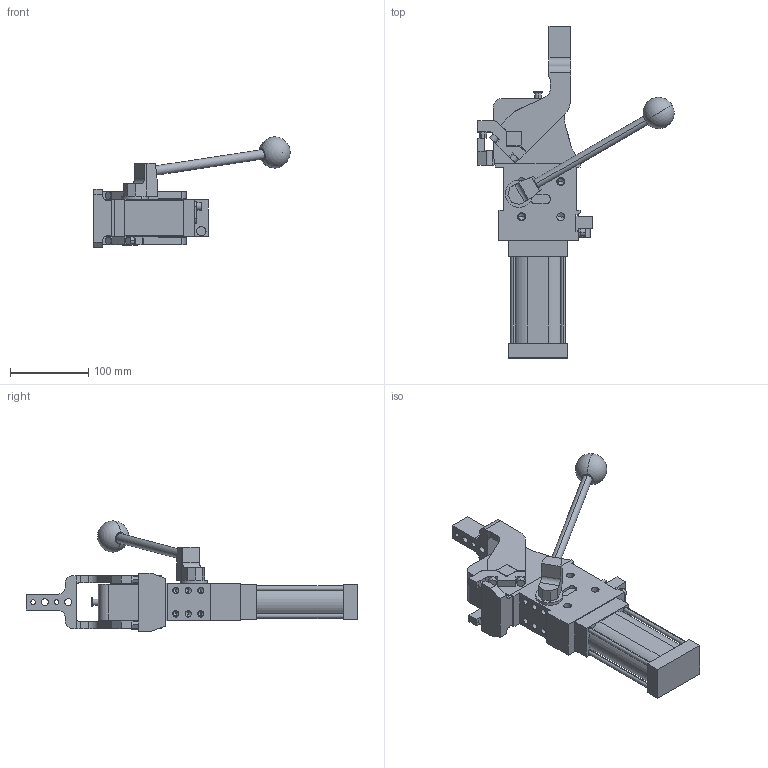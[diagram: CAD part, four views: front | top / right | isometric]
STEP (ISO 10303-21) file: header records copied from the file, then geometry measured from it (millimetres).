
FILE_DESCRIPTION (( 'STEP AP214' ), '1' );
FILE_NAME ('cplm50lath3csi1g_75.STEP', '2023-01-26T14:28:20', ( '' ), ( '' ), 'SwSTEP 2.0', 'SolidWorks 2022', '' );
FILE_SCHEMA (( 'AUTOMOTIVE_DESIGN' ));
Length unit declared in the file: millimetre
Products named in the file (5): leva_h3cs_cpl50t; comando_manuale_cplm_50; cplm50lath3csi1g_75; meccanica_cplm_50_tassello_esterno; blocchetto_VEP_0
Assembly tree (4 placements, depth 2):
  cplm50lath3csi1g_75
    meccanica_cplm_50_tassello_esterno
    blocchetto_VEP_0
    leva_h3cs_cpl50t
    comando_manuale_cplm_50
Bounding box: 251.06 x 424.5 x 141 mm (x, y, z)
Volume: 1512957.1 mm3; surface area: 193013.7 mm2
Topology: 4 solids, 4 shells, 470 faces, 1219 edges, 765 vertices
Faces by surface type: plane 245, cylinder 173, cone 50, sphere 2
Entity records: 15624 total; most frequent: DIRECTION 2484, CARTESIAN_POINT 2483, ORIENTED_EDGE 2336, EDGE_CURVE 1168, AXIS2_PLACEMENT_3D 845, VECTOR 794, LINE 794, VERTEX_POINT 762
